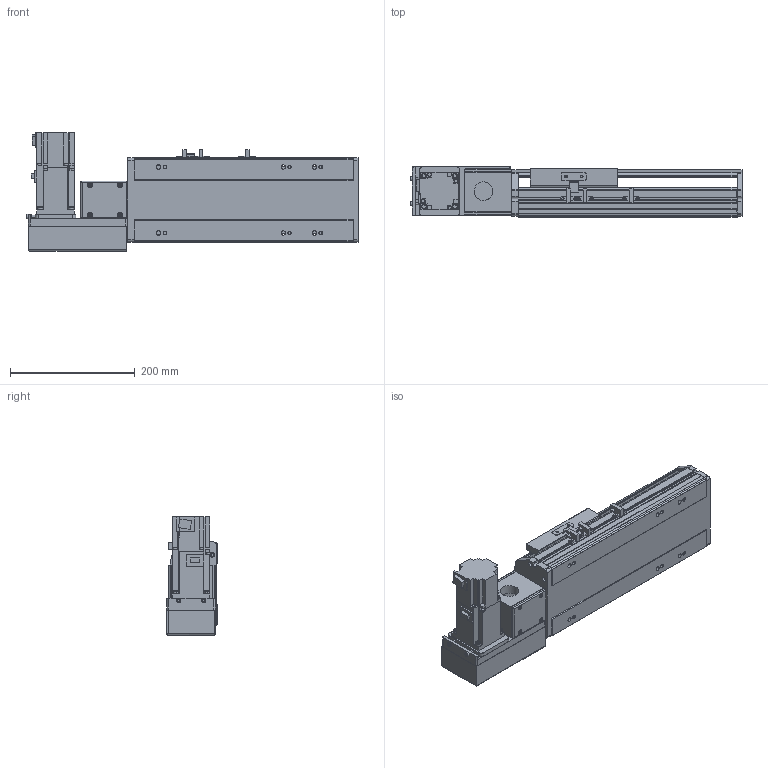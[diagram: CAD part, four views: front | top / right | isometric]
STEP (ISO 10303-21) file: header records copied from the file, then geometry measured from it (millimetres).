
FILE_DESCRIPTION( ( 'STEP AP214' ), '1' );
FILE_NAME( 'x:/temp/worker_27/temp/exporttempdir_6708_284_q4rCH/format_0/PBS140-P40-S100-L-T40-C1-N(0).stp', '2022-06-06T00:59:09', ( 'License CC BY-ND 4.0' ), ( 'CADENAS' ), ' ', 'PARTsolutions', ' ' );
FILE_SCHEMA( ( 'AUTOMOTIVE_DESIGN { 1 0 10303 214 1 1 1 1 }' ) );
Length unit declared in the file: millimetre
Products named in the file (7): PBS140-P40-S100-L-T40-C1-N(0); _PBS140-S100()_body; _PBS140T-L_motors; _T40-p1; _PBS140_sliser; _PBS140_plant; _PBS140_sensor
Assembly tree (8 placements, depth 2):
  PBS140-P40-S100-L-T40-C1-N(0)
    _PBS140-S100()_body
    _PBS140T-L_motors
    _T40-p1
    _PBS140_sliser
    _PBS140_plant
    _PBS140_sensor  x3
Bounding box: 533 x 80.5 x 189.7 mm (x, y, z)
Volume: 2738838.3 mm3; surface area: 516117.1 mm2
Topology: 8 solids, 8 shells, 995 faces, 2636 edges, 1723 vertices
Faces by surface type: plane 662, cylinder 291, cone 32, sphere 8, torus 2
Full cylindrical faces by diameter (mm): 3.242 x4, 4 x2, 4.134 x4, 4.4 x8, 4.5 x2, 4.8 x4, 4.917 x14, 5.5 x7, 6 x2, 7 x8, 7.5 x8, 8 x12, 8.5 x4, 10.5 x6, 14 x1, 30 x2, 50 x2
Entity records: 36079 total; most frequent: CARTESIAN_POINT 5411, DIRECTION 4847, ORIENTED_EDGE 4612, EDGE_CURVE 2306, AXIS2_PLACEMENT_3D 1657, VERTEX_POINT 1581, LINE 1533, VECTOR 1533
